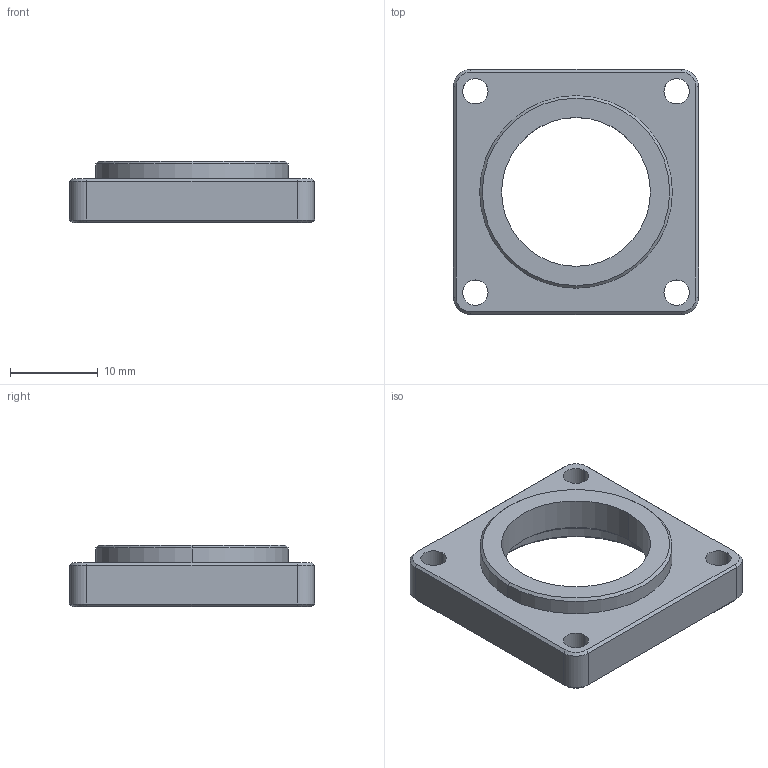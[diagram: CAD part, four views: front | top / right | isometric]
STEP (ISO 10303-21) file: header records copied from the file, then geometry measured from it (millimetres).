
FILE_DESCRIPTION (( 'STEP AP203' ), '1' );
FILE_NAME ('馬達墊高塊(28框用).STEP', '2023-11-28T06:51:24', ( '' ), ( '' ), 'SwSTEP 2.0', 'SolidWorks 2019', '' );
FILE_SCHEMA (( 'CONFIG_CONTROL_DESIGN' ));
Length unit declared in the file: millimetre
Products named in the file (1): 馬達墊高塊(28框用)
Bounding box: 28 x 28 x 7 mm (x, y, z)
Volume: 2464.3 mm3; surface area: 2266.6 mm2
Topology: 1 solids, 1 shells, 48 faces, 110 edges, 66 vertices
Faces by surface type: cylinder 18, plane 16, cone 14
Entity records: 1445 total; most frequent: DIRECTION 258, CARTESIAN_POINT 225, ORIENTED_EDGE 220, EDGE_CURVE 110, AXIS2_PLACEMENT_3D 99, VERTEX_POINT 66, VECTOR 60, LINE 60
